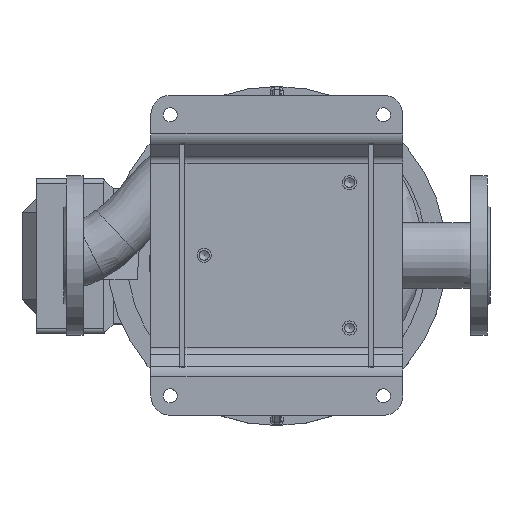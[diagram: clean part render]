
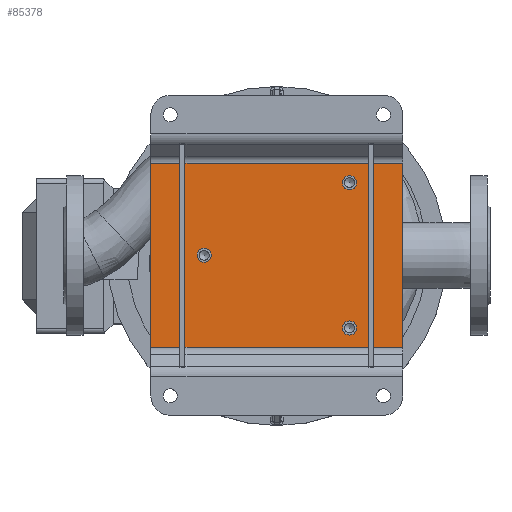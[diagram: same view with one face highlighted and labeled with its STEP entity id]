
A CAD part, top view. The second image highlights one B-rep face of the part: STEP entity #85378.
In plain terms, the highlighted planar face has unit normal (0, 0, 1) as drawn and (0, -1, 0) by its records, which use the part's own axes.
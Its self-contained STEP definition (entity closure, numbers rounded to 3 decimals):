
#540 = CARTESIAN_POINT ( 'NONE',  ( 0., -5., 0. ) ) ;
#3745 = AXIS2_PLACEMENT_3D ( 'NONE', #71373, #64430, #17808 ) ;
#4226 = DIRECTION ( 'NONE',  ( 0., -1., 0. ) ) ;
#8962 = CARTESIAN_POINT ( 'NONE',  ( 0., -5., -75. ) ) ;
#10344 = VERTEX_POINT ( 'NONE', #23414 ) ;
#11068 = EDGE_CURVE ( 'NONE', #29390, #29390, #85730, .T. ) ;
#11115 = CARTESIAN_POINT ( 'NONE',  ( -75., -5., 67.75 ) ) ;
#11298 = DIRECTION ( 'NONE',  ( 0., 0., -1. ) ) ;
#11834 = ORIENTED_EDGE ( 'NONE', *, *, #50924, .F. ) ;
#13134 = PLANE ( 'NONE',  #48466 ) ;
#13757 = VECTOR ( 'NONE', #58236, 1000. ) ;
#14851 = FACE_OUTER_BOUND ( 'NONE', #63892, .T. ) ;
#15536 = CARTESIAN_POINT ( 'NONE',  ( -95., -5., -130. ) ) ;
#16535 = LINE ( 'NONE', #31322, #20386 ) ;
#17808 = DIRECTION ( 'NONE',  ( 0., 0., -1. ) ) ;
#17954 = EDGE_LOOP ( 'NONE', ( #21506 ) ) ;
#20386 = VECTOR ( 'NONE', #11298, 1000. ) ;
#21088 = VERTEX_POINT ( 'NONE', #21518 ) ;
#21506 = ORIENTED_EDGE ( 'NONE', *, *, #68929, .F. ) ;
#21518 = CARTESIAN_POINT ( 'NONE',  ( 0., -5., -82.25 ) ) ;
#22749 = CARTESIAN_POINT ( 'NONE',  ( -95., -5., 130. ) ) ;
#23414 = CARTESIAN_POINT ( 'NONE',  ( 75., -5., 67.75 ) ) ;
#26212 = FACE_BOUND ( 'NONE', #28006, .T. ) ;
#28006 = EDGE_LOOP ( 'NONE', ( #75983 ) ) ;
#29390 = VERTEX_POINT ( 'NONE', #11115 ) ;
#31322 = CARTESIAN_POINT ( 'NONE',  ( 95., -5., 130. ) ) ;
#32724 = AXIS2_PLACEMENT_3D ( 'NONE', #63875, #4226, #70795 ) ;
#34963 = VERTEX_POINT ( 'NONE', #51219 ) ;
#35166 = AXIS2_PLACEMENT_3D ( 'NONE', #8962, #55557, #42913 ) ;
#37293 = EDGE_CURVE ( 'NONE', #21088, #21088, #74157, .T. ) ;
#39262 = VERTEX_POINT ( 'NONE', #62880 ) ;
#39700 = DIRECTION ( 'NONE',  ( 0., 0., -1. ) ) ;
#41399 = DIRECTION ( 'NONE',  ( 0., -1., 0. ) ) ;
#41490 = ORIENTED_EDGE ( 'NONE', *, *, #48028, .F. ) ;
#42514 = LINE ( 'NONE', #15536, #73132 ) ;
#42913 = DIRECTION ( 'NONE',  ( 0., 0., -1. ) ) ;
#43438 = VERTEX_POINT ( 'NONE', #71109 ) ;
#44467 = LINE ( 'NONE', #22749, #74622 ) ;
#46459 = EDGE_LOOP ( 'NONE', ( #69337 ) ) ;
#48028 = EDGE_CURVE ( 'NONE', #54549, #43438, #42514, .T. ) ;
#48466 = AXIS2_PLACEMENT_3D ( 'NONE', #540, #41399, #39700 ) ;
#50924 = EDGE_CURVE ( 'NONE', #39262, #54549, #16535, .T. ) ;
#51219 = CARTESIAN_POINT ( 'NONE',  ( -95., -5., 130. ) ) ;
#51258 = CARTESIAN_POINT ( 'NONE',  ( -95., -5., 130. ) ) ;
#53821 = EDGE_CURVE ( 'NONE', #34963, #39262, #44467, .T. ) ;
#54549 = VERTEX_POINT ( 'NONE', #62261 ) ;
#55557 = DIRECTION ( 'NONE',  ( 0., -1., 0. ) ) ;
#56443 = DIRECTION ( 'NONE',  ( -1., 0., 0. ) ) ;
#56499 = LINE ( 'NONE', #51258, #13757 ) ;
#58236 = DIRECTION ( 'NONE',  ( 0., 0., 1. ) ) ;
#60156 = FACE_BOUND ( 'NONE', #17954, .T. ) ;
#62261 = CARTESIAN_POINT ( 'NONE',  ( 95., -5., -130. ) ) ;
#62880 = CARTESIAN_POINT ( 'NONE',  ( 95., -5., 130. ) ) ;
#63875 = CARTESIAN_POINT ( 'NONE',  ( 75., -5., 75. ) ) ;
#63892 = EDGE_LOOP ( 'NONE', ( #11834, #65853, #65532, #41490 ) ) ;
#64430 = DIRECTION ( 'NONE',  ( 0., -1., 0. ) ) ;
#65532 = ORIENTED_EDGE ( 'NONE', *, *, #80646, .F. ) ;
#65853 = ORIENTED_EDGE ( 'NONE', *, *, #53821, .F. ) ;
#68929 = EDGE_CURVE ( 'NONE', #10344, #10344, #75798, .T. ) ;
#69337 = ORIENTED_EDGE ( 'NONE', *, *, #11068, .F. ) ;
#70591 = DIRECTION ( 'NONE',  ( 1., 0., 0. ) ) ;
#70795 = DIRECTION ( 'NONE',  ( 0., 0., -1. ) ) ;
#71109 = CARTESIAN_POINT ( 'NONE',  ( -95., -5., -130. ) ) ;
#71373 = CARTESIAN_POINT ( 'NONE',  ( -75., -5., 75. ) ) ;
#73132 = VECTOR ( 'NONE', #56443, 1000. ) ;
#74157 = CIRCLE ( 'NONE', #35166, 7.25 ) ;
#74622 = VECTOR ( 'NONE', #70591, 1000. ) ;
#75798 = CIRCLE ( 'NONE', #32724, 7.25 ) ;
#75983 = ORIENTED_EDGE ( 'NONE', *, *, #37293, .F. ) ;
#80646 = EDGE_CURVE ( 'NONE', #43438, #34963, #56499, .T. ) ;
#81036 = FACE_BOUND ( 'NONE', #46459, .T. ) ;
#85378 = ADVANCED_FACE ( 'NONE', ( #60156, #26212, #81036, #14851 ), #13134, .T. ) ;
#85730 = CIRCLE ( 'NONE', #3745, 7.25 ) ;
